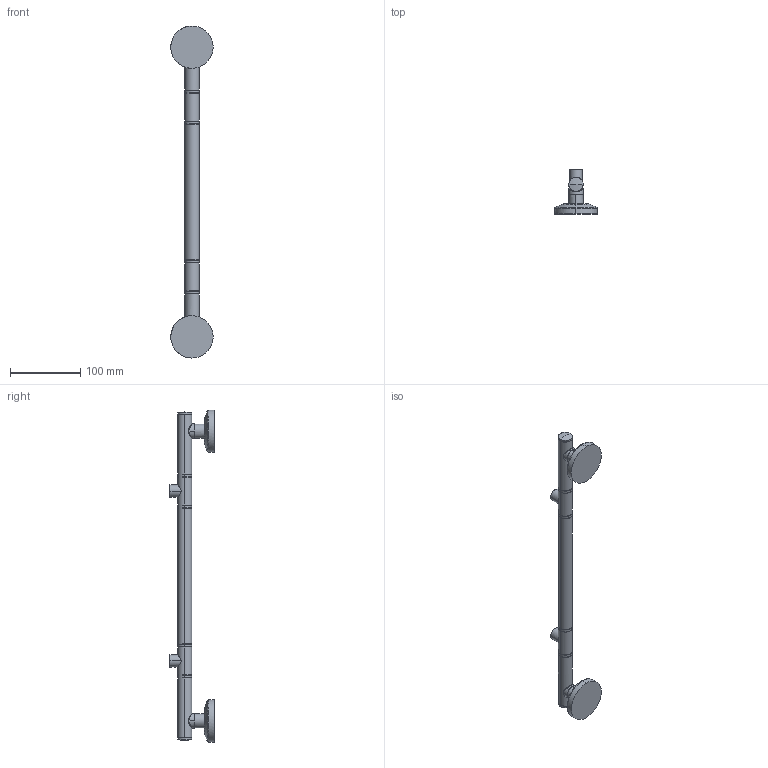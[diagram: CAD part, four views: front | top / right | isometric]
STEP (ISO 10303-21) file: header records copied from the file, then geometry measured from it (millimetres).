
FILE_DESCRIPTION(('THIS FILE CONTAINS SOME STEP INSTANCES'),'1');
FILE_NAME('sta_077.stp','2015-12-09T15:32:03',('UNDEFINED'),('UNDEFINED'),'T-FLEX CAD STEP converter','T-FLEX CAD','');
FILE_SCHEMA(('CONFIG_CONTROL_DESIGN'));
Length unit declared in the file: metre
Products named in the file (4): 3D 鐨飹懤艜_29; 3D 鐨飹懤艜_21; 髓礤轫 爨耨桠_6
Bounding box: 59.96 x 62.9 x 471 mm (x, y, z)
Volume: 231988.1 mm3; surface area: 51069.6 mm2
Topology: 4 solids, 6 shells, 154 faces, 324 edges, 186 vertices
Faces by surface type: cylinder 54, cone 48, plane 22, bspline 18, torus 8, sphere 4
Entity records: 13189 total; most frequent: CARTESIAN_POINT 10443, ORIENTED_EDGE 640, DIRECTION 428, EDGE_CURVE 320, VERTEX_POINT 186, EDGE_LOOP 166, AXIS2_PLACEMENT_3D 163, ADVANCED_FACE 154
